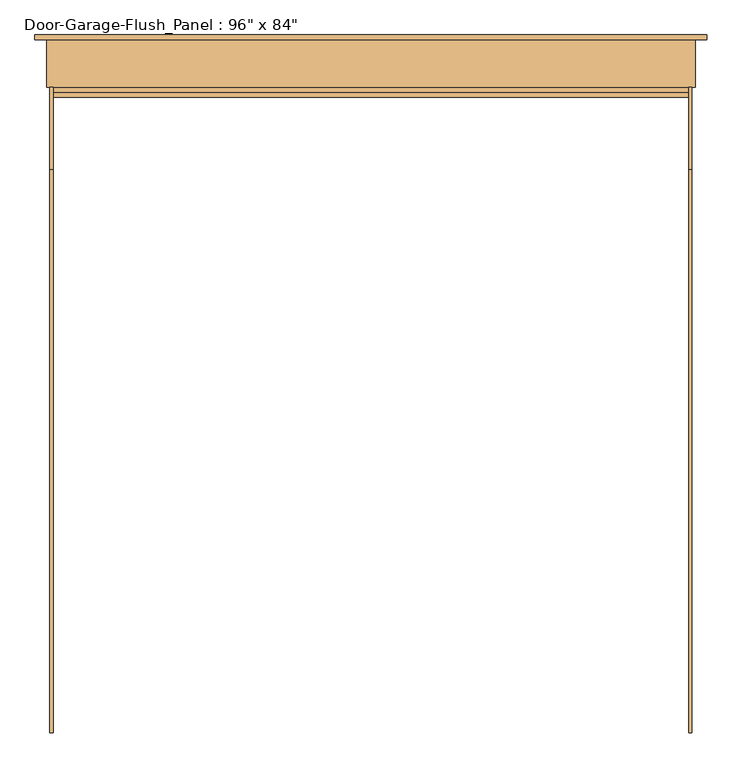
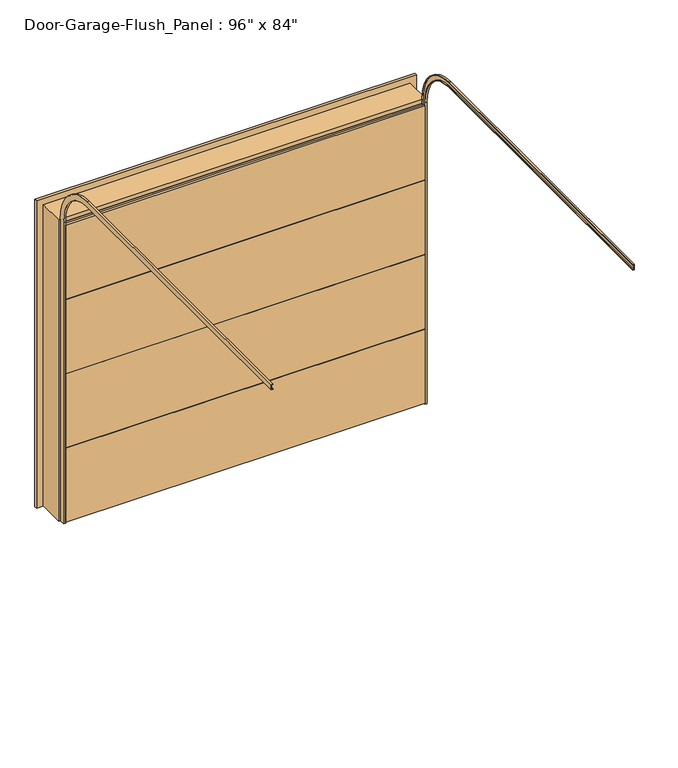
"""IFC4 building model written with IfcOpenShell, lengths in millimetres: door geometry."""

import ifcopenshell
import ifcopenshell.guid

model = None  # the IFC model being written
_history = None  # IfcOwnerHistory: only IFC2X3 demands one
_inside = {}  # id of a spatial element -> (the spatial element, [elements in it])
_under = {}  # id of a project, library or spatial element -> (it, [spatial elements below it])
_declared = {}  # id of a project -> (the project, [libraries it declares])
_typed = {}  # id of a type object -> (the type object, [elements of that type])
_made_of = {}  # id of a material, layer set ... -> (it, [elements and type objects made of it])


def new_model(schema):
    """Start an empty IFC model of exactly this schema.

    Asked for "IFC4X3", IfcOpenShell would pick the latest addendum, in which some entities
    have other attributes; the version numbers below select the first issue.
    IFC2X3 requires an IfcOwnerHistory on every rooted entity: one is made here for all.
    """
    global model, _history
    if schema == "IFC4X3":
        model = ifcopenshell.file(schema_version=(4, 3, 0, 0))
    else:
        model = ifcopenshell.file(schema=schema)
    _inside.clear()
    _under.clear()
    _declared.clear()
    _typed.clear()
    _made_of.clear()
    _history = None
    if model.schema == "IFC2X3":
        org = make("IfcOrganization", Name="unknown")
        user = make(
            "IfcPersonAndOrganization",
            ThePerson=make("IfcPerson", FamilyName="unknown"),
            TheOrganization=org,
        )
        app = make(
            "IfcApplication",
            ApplicationDeveloper=org,
            Version="unknown",
            ApplicationFullName="unknown",
            ApplicationIdentifier="unknown",
        )
        _history = make(
            "IfcOwnerHistory",
            OwningUser=user,
            OwningApplication=app,
            ChangeAction="ADDED",
            CreationDate=0,
        )
    return model


def make(cls, **values):
    """One entity of the class cls with the attributes given. An attribute that is None is left unset."""
    return model.create_entity(
        cls, **{name: value for name, value in values.items() if value is not None}
    )


def rooted(cls, **values):
    """An entity with a GlobalId (a new one), such as an element, a storey or a relation."""
    return make(cls, GlobalId=ifcopenshell.guid.new(), OwnerHistory=_history, **values)


def si_unit(unit_type, name, prefix=None):
    """IfcSIUnit, for example si_unit("LENGTHUNIT", "METRE", prefix="MILLI")."""
    return make("IfcSIUnit", UnitType=unit_type, Prefix=prefix, Name=name)


def assignment(units):
    """IfcUnitAssignment: the units of a project."""
    return None if units is None else make("IfcUnitAssignment", Units=units)


def point(xyz):
    """IfcCartesianPoint."""
    return None if xyz is None else make("IfcCartesianPoint", Coordinates=xyz)


def direction(xyz):
    """IfcDirection."""
    return None if xyz is None else make("IfcDirection", DirectionRatios=xyz)


def frame(location, z_axis=None, x_axis=None):
    """IfcAxis2Placement3D, a coordinate frame: its origin and axes. An axis left out is left unset."""
    return make(
        "IfcAxis2Placement3D",
        Location=point(location),
        Axis=direction(z_axis),
        RefDirection=direction(x_axis),
    )


def origin():
    """The frame at (0, 0, 0) with its axes left unset."""
    return frame((0.0, 0.0, 0.0))


def place(relative_to, where):
    """IfcLocalPlacement: puts the frame where relative to a parent placement (None: the world)."""
    return make(
        "IfcLocalPlacement", PlacementRelTo=relative_to, RelativePlacement=where
    )


def context(
    kind, dimensions, precision=None, world=None, true_north=None, identifier=None
):
    """IfcGeometricRepresentationContext, for example the 3D "Model" context."""
    return make(
        "IfcGeometricRepresentationContext",
        ContextIdentifier=identifier,
        ContextType=kind,
        CoordinateSpaceDimension=dimensions,
        Precision=precision,
        WorldCoordinateSystem=world,
        TrueNorth=true_north,
    )


def project(units=None, contexts=None):
    """IfcProject with its units and contexts."""
    return rooted(
        "IfcProject",
        Name="project",
        RepresentationContexts=contexts,
        UnitsInContext=assignment(units),
    )


def spatial(cls, under=None, at=None, **own):
    """A site, building, storey or space (cls), placed at a placement, below another one or the project."""
    s = rooted(cls, ObjectPlacement=at, **own)
    if under is not None:
        _under.setdefault(under.id(), (under, []))[1].append(s)
    return s


def polyline(points):
    """IfcPolyline through the points."""
    return make("IfcPolyline", Points=[point(p) for p in points])


def circle_curve(where, radius):
    """IfcCircle in the frame where."""
    return make("IfcCircle", Position=where, Radius=radius)


def outline(outer, holes=None, kind="AREA"):
    """IfcArbitraryClosedProfileDef: a profile drawn as a closed curve; with holes, ...WithVoids."""
    if holes is None:
        return make("IfcArbitraryClosedProfileDef", ProfileType=kind, OuterCurve=outer)
    return make(
        "IfcArbitraryProfileDefWithVoids",
        ProfileType=kind,
        OuterCurve=outer,
        InnerCurves=holes,
    )


def extrude(swept, where, along, depth):
    """IfcExtrudedAreaSolid: the profile swept, set in the frame where, extruded along a direction by depth."""
    return make(
        "IfcExtrudedAreaSolid",
        SweptArea=swept,
        Position=where,
        ExtrudedDirection=direction(along),
        Depth=depth,
    )


def shape(context_of_items, identifier, shape_type, items):
    """IfcShapeRepresentation: the items that make up one representation, for example the "Body"."""
    return make(
        "IfcShapeRepresentation",
        ContextOfItems=context_of_items,
        RepresentationIdentifier=identifier,
        RepresentationType=shape_type,
        Items=items,
    )


def source(mapping_origin, context_of_items, identifier, shape_type, items):
    """IfcRepresentationMap: a shape defined once, which mapped items show again and again."""
    return make(
        "IfcRepresentationMap",
        MappingOrigin=mapping_origin,
        MappedRepresentation=shape(context_of_items, identifier, shape_type, items),
    )


def transform(
    local_origin,
    x_axis=None,
    y_axis=None,
    z_axis=None,
    scale=None,
    scale2=None,
    scale3=None,
    uniform=True,
):
    """IfcCartesianTransformationOperator3D, or its non-uniform kind. x_axis, y_axis, z_axis: its Axis1, 2, 3."""
    if uniform:
        return make(
            "IfcCartesianTransformationOperator3D",
            Axis1=direction(x_axis),
            Axis2=direction(y_axis),
            LocalOrigin=point(local_origin),
            Scale=scale,
            Axis3=direction(z_axis),
        )
    return make(
        "IfcCartesianTransformationOperator3DnonUniform",
        Axis1=direction(x_axis),
        Axis2=direction(y_axis),
        LocalOrigin=point(local_origin),
        Scale=scale,
        Axis3=direction(z_axis),
        Scale2=scale2,
        Scale3=scale3,
    )


def mapped(mapping_source, mapping_target):
    """IfcMappedItem: shows the shape of a source again, moved by a transform."""
    return make(
        "IfcMappedItem", MappingSource=mapping_source, MappingTarget=mapping_target
    )


def made_of(thing, what):
    """Note that an element or type object is made of a material, layer set ...; save() writes the relation."""
    if what is not None:
        _made_of.setdefault(what.id(), (what, []))[1].append(thing)
    return thing


def element(
    cls,
    number,
    at=None,
    inside=None,
    cuts=None,
    type_object=None,
    material=None,
    context=None,
    identifier="Body",
    shape_type=None,
    held_by="IfcProductDefinitionShape",
    body=None,
    shapes=None,
    **own,
):
    """One element of the class cls, such as IfcWall. Its Tag is "e" and its number.

    at: its placement. inside: the storey or other place that contains it. cuts: it is an
    opening in that element (IfcRelVoidsElement). A single representation is given by context,
    identifier, shape_type and body (its items); several are given by shapes. held_by: the class
    of the entity that holds the representations. save() writes the other relations.
    """
    e = rooted(cls, Tag="e%d" % number, ObjectPlacement=at, **own)
    if body is not None:
        shapes = [shape(context, identifier, shape_type, body)]
    if shapes is not None:
        e.Representation = make(held_by, Representations=shapes)
    if inside is not None:
        _inside.setdefault(inside.id(), (inside, []))[1].append(e)
    if cuts is not None:
        rooted(
            "IfcRelVoidsElement", RelatingBuildingElement=cuts, RelatedOpeningElement=e
        )
    if type_object is not None:
        _typed.setdefault(type_object.id(), (type_object, []))[1].append(e)
    return made_of(e, material)


def aggregate(whole, parts):
    """IfcRelAggregates: a whole, such as a stair, and the parts it consists of."""
    return rooted("IfcRelAggregates", RelatingObject=whole, RelatedObjects=parts)


def save(model, path):
    """Write the relations noted so far, then the file.

    IfcRelAggregates (storeys below a building ...), IfcRelContainedInSpatialStructure (elements
    in a storey), IfcRelDefinesByType, IfcRelAssociatesMaterial and IfcRelDeclares: one each for
    every whole, place, type object, material and project.
    """
    for whole, parts in _under.values():
        aggregate(whole, parts)
    for where, things in _inside.values():
        rooted(
            "IfcRelContainedInSpatialStructure",
            RelatedElements=things,
            RelatingStructure=where,
        )
    for kind, things in _typed.values():
        rooted("IfcRelDefinesByType", RelatedObjects=things, RelatingType=kind)
    for what, things in _made_of.values():
        rooted("IfcRelAssociatesMaterial", RelatedObjects=things, RelatingMaterial=what)
    for by, libraries in _declared.values():
        rooted("IfcRelDeclares", RelatingContext=by, RelatedDefinitions=libraries)
    model.write(path)


def plane_surface(at):
    """IfcPlane: the flat surface through the origin of the frame at, square to its z axis."""
    return make("IfcPlane", Position=at)


def cylinder_surface(at, radius):
    """IfcCylindricalSurface: all points at the distance radius from the z axis of the frame at."""
    return make("IfcCylindricalSurface", Position=at, Radius=radius)


def revolved_surface(curve, axis_point, axis_direction):
    """IfcSurfaceOfRevolution: the curve turned about the line through axis_point along axis_direction."""
    return make(
        "IfcSurfaceOfRevolution",
        SweptCurve=make("IfcArbitraryOpenProfileDef", ProfileType="CURVE", Curve=curve),
        AxisPosition=make("IfcAxis1Placement", Location=point(axis_point), Axis=direction(axis_direction)),
    )


def advanced_brep(points, edges, surfaces, faces):
    """IfcAdvancedBrep: a solid bounded by faces that lie on surfaces and meet in shared edges.

    An edge is (start, end): straight between two places in points (the first is 0);
    or (start, end, curve); or (start, end, curve, False) where it runs against its curve.
    A face is (place in surfaces, loops), or (place, loops, False) where it looks against
    its surface's normal. A loop lists edges by number (the first is 1), with a minus sign
    where the edge is run from its end to its start. The first loop is the outer one.
    """
    corners = [point(p) for p in points]
    vertices = [make("IfcVertexPoint", VertexGeometry=c) for c in corners]
    made = []
    for start, end, *more in edges:
        made.append(
            make(
                "IfcEdgeCurve",
                EdgeStart=vertices[start],
                EdgeEnd=vertices[end],
                EdgeGeometry=more[0] if more else make("IfcPolyline", Points=[corners[start], corners[end]]),
                SameSense=more[1] if len(more) > 1 else True,
            )
        )
    hull = []
    for where, loops, *sense in faces:
        bounds = []
        for j, loop in enumerate(loops):
            ring = [make("IfcOrientedEdge", EdgeElement=made[abs(k) - 1], Orientation=k > 0) for k in loop]
            bounds.append(
                make(
                    "IfcFaceOuterBound" if j == 0 else "IfcFaceBound",
                    Bound=make("IfcEdgeLoop", EdgeList=ring),
                    Orientation=True,
                )
            )
        hull.append(make("IfcAdvancedFace", Bounds=bounds, FaceSurface=surfaces[where], SameSense=sense[0] if sense else True))
    return make("IfcAdvancedBrep", Outer=make("IfcClosedShell", CfsFaces=hull))


def door_e74c17d9(model_context):
    return source(origin(), model_context, "Body", "SolidModel", [
        extrude(outline(polyline([(-115.8875, 2136.775), (-115.8875, 2130.425), (-93.6625, 2130.425), (-93.6625, 1600.2), (-109.5375, 1600.2), (-109.5375, 1606.55), (-131.7625, 1606.55), (-131.7625, 2136.775), (-115.8875, 2136.775)])), frame((-1219.2, 0.0, 0.0), z_axis=(1.0, 0.0, 0.0), x_axis=(0.0, 1.0, 0.0)), (0.0, 0.0, 1.0), 2438.4),
        extrude(outline(polyline([(-115.8875, 1603.375), (-115.8875, 1597.025), (-93.6625, 1597.025), (-93.6625, 1066.8), (-109.5375, 1066.8), (-109.5375, 1073.15), (-131.7625, 1073.15), (-131.7625, 1603.375), (-115.8875, 1603.375)])), frame((-1219.2, 0.0, 0.0), z_axis=(1.0, 0.0, 0.0), x_axis=(0.0, 1.0, 0.0)), (0.0, 0.0, 1.0), 2438.4),
        extrude(outline(polyline([(-115.8875, 1069.975), (-115.8875, 1063.625), (-93.6625, 1063.625), (-93.6625, 533.4), (-109.5375, 533.4), (-109.5375, 539.75), (-131.7625, 539.75), (-131.7625, 1069.975), (-115.8875, 1069.975)])), frame((-1219.2, 0.0, 0.0), z_axis=(1.0, 0.0, 0.0), x_axis=(0.0, 1.0, 0.0)), (0.0, 0.0, 1.0), 2438.4),
        extrude(outline(polyline([(-115.8875, 536.575), (-115.8875, 530.225), (-93.6625, 530.225), (-93.6625, 0.0), (-109.5375, 0.0), (-109.5375, 6.35), (-131.7625, 6.35), (-131.7625, 536.575), (-115.8875, 536.575)])), frame((-1219.2, 0.0, 0.0), z_axis=(1.0, 0.0, 0.0), x_axis=(0.0, 1.0, 0.0)), (0.0, 0.0, 1.0), 2438.4),
        advanced_brep(
        [(1231.9, -2570.1625, 2438.4), (1231.9, -2570.1625, 2476.5), (1219.2, -2570.1625, 2476.5), (1219.2, -2570.1625, 2473.325), (1228.725, -2570.1625, 2473.325), (1228.725, -2570.1625, 2441.575), (1219.2, -2570.1625, 2441.575), (1219.2, -2570.1625, 2438.4), (1231.9, -411.1625, 2438.4), (1231.9, -131.7625, 2159.0), (1231.9, -131.7625, 0.0), (1231.9, -93.6625, 0.0), (1231.9, -93.6625, 2159.0), (1231.9, -411.1625, 2476.5), (1219.2, -411.1625, 2476.5), (1219.2, -93.6625, 2159.0), (1219.2, -93.6625, 0.0), (1219.2, -96.8375, 0.0), (1219.2, -96.8375, 2159.0), (1219.2, -411.1625, 2473.325), (1228.725, -411.1625, 2473.325), (1228.725, -96.8375, 2159.0), (1228.725, -96.8375, 0.0), (1228.725, -128.5875, 0.0), (1228.725, -128.5875, 2159.0), (1228.725, -411.1625, 2441.575), (1219.2, -411.1625, 2441.575), (1219.2, -128.5875, 2159.0), (1219.2, -128.5875, 0.0), (1219.2, -131.7625, 0.0), (1219.2, -131.7625, 2159.0), (1219.2, -411.1625, 2438.4)],
        [
            (0, 1),
            (1, 2),
            (2, 3),
            (3, 4),
            (4, 5),
            (5, 6),
            (6, 7),
            (7, 0),
            (0, 8),
            (8, 9, circle_curve(frame((1231.9, -411.1625, 2159.0), z_axis=(-1.0, 0.0, 0.0), x_axis=(0.0, 0.0, 1.0)), 279.4)),
            (9, 10),
            (10, 11),
            (11, 12),
            (12, 13, circle_curve(frame((1231.9, -411.1625, 2159.0), z_axis=(1.0, 0.0, 0.0), x_axis=(0.0, 0.0, 1.0)), 317.5)),
            (13, 1),
            (13, 14),
            (14, 2),
            (14, 15, circle_curve(frame((1219.2, -411.1625, 2159.0), z_axis=(-1.0, 0.0, 0.0), x_axis=(0.0, 0.0, 1.0)), 317.5)),
            (15, 16),
            (16, 17),
            (17, 18),
            (18, 19, circle_curve(frame((1219.2, -411.1625, 2159.0), z_axis=(1.0, 0.0, 0.0), x_axis=(0.0, 0.0, 1.0)), 314.325)),
            (19, 3),
            (19, 20),
            (20, 4),
            (20, 21, circle_curve(frame((1228.725, -411.1625, 2159.0), z_axis=(-1.0, 0.0, 0.0), x_axis=(0.0, 0.0, 1.0)), 314.325)),
            (21, 22),
            (22, 23),
            (23, 24),
            (24, 25, circle_curve(frame((1228.725, -411.1625, 2159.0), z_axis=(1.0, 0.0, 0.0), x_axis=(0.0, 0.0, 1.0)), 282.575)),
            (25, 5),
            (25, 26),
            (26, 6),
            (26, 27, circle_curve(frame((1219.2, -411.1625, 2159.0), z_axis=(-1.0, 0.0, 0.0), x_axis=(0.0, 0.0, 1.0)), 282.575)),
            (27, 28),
            (28, 29),
            (29, 30),
            (30, 31, circle_curve(frame((1219.2, -411.1625, 2159.0), z_axis=(1.0, 0.0, 0.0), x_axis=(0.0, 0.0, 1.0)), 279.4)),
            (31, 7),
            (31, 8),
            (12, 15),
            (18, 21),
            (24, 27),
            (30, 9),
            (10, 29),
            (28, 23),
            (22, 17),
            (16, 11),
        ],
        [
            plane_surface(frame((0.0, -2570.1625, 2438.4), z_axis=(0.0, -1.0, 0.0), x_axis=(1.0, 0.0, 0.0))),
            plane_surface(frame((1231.9, -2570.1625, 2438.4), z_axis=(1.0, 0.0, 0.0), x_axis=(0.0, 1.0, 0.0))),
            plane_surface(frame((1231.9, -2570.1625, 2476.5), z_axis=(0.0, 0.0, 1.0), x_axis=(0.0, 1.0, 0.0))),
            plane_surface(frame((1219.2, -2570.1625, 2476.5), z_axis=(-1.0, 0.0, 0.0), x_axis=(0.0, 1.0, 0.0))),
            plane_surface(frame((1219.2, -2570.1625, 2473.325), z_axis=(0.0, 0.0, -1.0), x_axis=(0.0, 1.0, 0.0))),
            plane_surface(frame((1228.725, -2570.1625, 2473.325), z_axis=(-1.0, 0.0, 0.0), x_axis=(0.0, 1.0, 0.0))),
            plane_surface(frame((1228.725, -2570.1625, 2441.575), z_axis=(0.0, 0.0, 1.0), x_axis=(0.0, 1.0, 0.0))),
            plane_surface(frame((1219.2, -2570.1625, 2441.575), z_axis=(-1.0, 0.0, 0.0), x_axis=(0.0, 1.0, 0.0))),
            plane_surface(frame((1219.2, -2570.1625, 2438.4), z_axis=(0.0, 0.0, -1.0), x_axis=(0.0, 1.0, 0.0))),
            cylinder_surface(frame((0.0, -411.1625, 2159.0), z_axis=(-1.0, 0.0, 0.0), x_axis=(0.0, 0.0, 1.0)), 317.5),
            revolved_surface(polyline([(1219.2, -411.1625, 2473.325), (1228.725, -411.1625, 2473.325)]), (0.0, -411.1625, 2159.0), (-1.0, 0.0, 0.0)),
            cylinder_surface(frame((0.0, -411.1625, 2159.0), z_axis=(-1.0, 0.0, 0.0), x_axis=(0.0, 0.0, 1.0)), 282.575),
            revolved_surface(polyline([(1219.2, -411.1625, 2438.4), (1231.9, -411.1625, 2438.4)]), (0.0, -411.1625, 2159.0), (-1.0, 0.0, 0.0)),
            plane_surface(frame((0.0, -131.7625, 0.0), z_axis=(0.0, 0.0, -1.0), x_axis=(1.0, 0.0, 0.0))),
            plane_surface(frame((1231.9, -93.6625, 2159.0), z_axis=(0.0, 1.0, 0.0), x_axis=(0.0, 0.0, -1.0))),
            plane_surface(frame((1219.2, -96.8375, 2159.0), z_axis=(0.0, -1.0, 0.0), x_axis=(0.0, 0.0, -1.0))),
            plane_surface(frame((1228.725, -128.5875, 2159.0), z_axis=(0.0, 1.0, 0.0), x_axis=(0.0, 0.0, -1.0))),
            plane_surface(frame((1219.2, -131.7625, 2159.0), z_axis=(0.0, -1.0, 0.0), x_axis=(0.0, 0.0, -1.0))),
        ],
        [
            (0, [[1, 2, 3, 4, 5, 6, 7, 8]]),
            (1, [[-1, 9, 10, 11, 12, 13, 14, 15]]),
            (2, [[-2, -15, 16, 17]]),
            (3, [[-3, -17, 18, 19, 20, 21, 22, 23]]),
            (4, [[-4, -23, 24, 25]]),
            (5, [[-5, -25, 26, 27, 28, 29, 30, 31]]),
            (6, [[-6, -31, 32, 33]]),
            (7, [[-7, -33, 34, 35, 36, 37, 38, 39]]),
            (8, [[-8, -39, 40, -9]]),
            (9, [[-18, -16, -14, 41]]),
            (10, [[-26, -24, -22, 42]]),
            (11, [[-34, -32, -30, 43]]),
            (12, [[-10, -40, -38, 44]]),
            (13, [[45, -36, 46, -28, 47, -20, 48, -12]]),
            (14, [[-41, -13, -48, -19]]),
            (15, [[-42, -21, -47, -27]]),
            (16, [[-43, -29, -46, -35]]),
            (17, [[-44, -37, -45, -11]]),
        ],
    ),
        advanced_brep(
        [(-1231.9, -2570.1625, 2438.4), (-1219.2, -2570.1625, 2438.4), (-1219.2, -2570.1625, 2441.575), (-1228.725, -2570.1625, 2441.575), (-1228.725, -2570.1625, 2473.325), (-1219.2, -2570.1625, 2473.325), (-1219.2, -2570.1625, 2476.5), (-1231.9, -2570.1625, 2476.5), (-1231.9, -411.1625, 2438.4), (-1219.2, -411.1625, 2438.4), (-1219.2, -131.7625, 2159.0), (-1219.2, -131.7625, 0.0), (-1219.2, -128.5875, 0.0), (-1219.2, -128.5875, 2159.0), (-1219.2, -411.1625, 2441.575), (-1228.725, -411.1625, 2441.575), (-1228.725, -128.5875, 2159.0), (-1228.725, -128.5875, 0.0), (-1228.725, -96.8375, 0.0), (-1228.725, -96.8375, 2159.0), (-1228.725, -411.1625, 2473.325), (-1219.2, -411.1625, 2473.325), (-1219.2, -96.8375, 2159.0), (-1219.2, -96.8375, 0.0), (-1219.2, -93.6625, 0.0), (-1219.2, -93.6625, 2159.0), (-1219.2, -411.1625, 2476.5), (-1231.9, -411.1625, 2476.5), (-1231.9, -93.6625, 2159.0), (-1231.9, -93.6625, 0.0), (-1231.9, -131.7625, 0.0), (-1231.9, -131.7625, 2159.0)],
        [
            (0, 1),
            (1, 2),
            (2, 3),
            (3, 4),
            (4, 5),
            (5, 6),
            (6, 7),
            (7, 0),
            (0, 8),
            (8, 9),
            (9, 1),
            (9, 10, circle_curve(frame((-1219.2, -411.1625, 2159.0), z_axis=(-1.0, 0.0, 0.0), x_axis=(0.0, 0.0, 1.0)), 279.4)),
            (10, 11),
            (11, 12),
            (12, 13),
            (13, 14, circle_curve(frame((-1219.2, -411.1625, 2159.0), z_axis=(1.0, 0.0, 0.0), x_axis=(0.0, 0.0, 1.0)), 282.575)),
            (14, 2),
            (14, 15),
            (15, 3),
            (15, 16, circle_curve(frame((-1228.725, -411.1625, 2159.0), z_axis=(-1.0, 0.0, 0.0), x_axis=(0.0, 0.0, 1.0)), 282.575)),
            (16, 17),
            (17, 18),
            (18, 19),
            (19, 20, circle_curve(frame((-1228.725, -411.1625, 2159.0), z_axis=(1.0, 0.0, 0.0), x_axis=(0.0, 0.0, 1.0)), 314.325)),
            (20, 4),
            (20, 21),
            (21, 5),
            (21, 22, circle_curve(frame((-1219.2, -411.1625, 2159.0), z_axis=(-1.0, 0.0, 0.0), x_axis=(0.0, 0.0, 1.0)), 314.325)),
            (22, 23),
            (23, 24),
            (24, 25),
            (25, 26, circle_curve(frame((-1219.2, -411.1625, 2159.0), z_axis=(1.0, 0.0, 0.0), x_axis=(0.0, 0.0, 1.0)), 317.5)),
            (26, 6),
            (26, 27),
            (27, 7),
            (27, 28, circle_curve(frame((-1231.9, -411.1625, 2159.0), z_axis=(-1.0, 0.0, 0.0), x_axis=(0.0, 0.0, 1.0)), 317.5)),
            (28, 29),
            (29, 30),
            (30, 31),
            (31, 8, circle_curve(frame((-1231.9, -411.1625, 2159.0), z_axis=(1.0, 0.0, 0.0), x_axis=(0.0, 0.0, 1.0)), 279.4)),
            (31, 10),
            (13, 16),
            (19, 22),
            (25, 28),
            (29, 24),
            (23, 18),
            (17, 12),
            (11, 30),
        ],
        [
            plane_surface(frame((0.0, -2570.1625, 2438.4), z_axis=(0.0, -1.0, 0.0), x_axis=(1.0, 0.0, 0.0))),
            plane_surface(frame((-1231.9, -2570.1625, 2438.4), z_axis=(0.0, 0.0, -1.0), x_axis=(0.0, 1.0, 0.0))),
            plane_surface(frame((-1219.2, -2570.1625, 2438.4), z_axis=(1.0, 0.0, 0.0), x_axis=(0.0, 1.0, 0.0))),
            plane_surface(frame((-1219.2, -2570.1625, 2441.575), z_axis=(0.0, 0.0, 1.0), x_axis=(0.0, 1.0, 0.0))),
            plane_surface(frame((-1228.725, -2570.1625, 2441.575), z_axis=(1.0, 0.0, 0.0), x_axis=(0.0, 1.0, 0.0))),
            plane_surface(frame((-1228.725, -2570.1625, 2473.325), z_axis=(0.0, 0.0, -1.0), x_axis=(0.0, 1.0, 0.0))),
            plane_surface(frame((-1219.2, -2570.1625, 2473.325), z_axis=(1.0, 0.0, 0.0), x_axis=(0.0, 1.0, 0.0))),
            plane_surface(frame((-1219.2, -2570.1625, 2476.5), z_axis=(0.0, 0.0, 1.0), x_axis=(0.0, 1.0, 0.0))),
            plane_surface(frame((-1231.9, -2570.1625, 2476.5), z_axis=(-1.0, 0.0, 0.0), x_axis=(0.0, 1.0, 0.0))),
            revolved_surface(polyline([(-1231.9, -411.1625, 2438.4), (-1219.2, -411.1625, 2438.4)]), (0.0, -411.1625, 2159.0), (-1.0, 0.0, 0.0)),
            cylinder_surface(frame((0.0, -411.1625, 2159.0), z_axis=(-1.0, 0.0, 0.0), x_axis=(0.0, 0.0, 1.0)), 282.575),
            revolved_surface(polyline([(-1228.725, -411.1625, 2473.325), (-1219.2, -411.1625, 2473.325)]), (0.0, -411.1625, 2159.0), (-1.0, 0.0, 0.0)),
            cylinder_surface(frame((0.0, -411.1625, 2159.0), z_axis=(-1.0, 0.0, 0.0), x_axis=(0.0, 0.0, 1.0)), 317.5),
            plane_surface(frame((0.0, -131.7625, 0.0), z_axis=(0.0, 0.0, -1.0), x_axis=(1.0, 0.0, 0.0))),
            plane_surface(frame((-1231.9, -131.7625, 2159.0), z_axis=(0.0, -1.0, 0.0), x_axis=(0.0, 0.0, -1.0))),
            plane_surface(frame((-1219.2, -128.5875, 2159.0), z_axis=(0.0, 1.0, 0.0), x_axis=(0.0, 0.0, -1.0))),
            plane_surface(frame((-1228.725, -96.8375, 2159.0), z_axis=(0.0, -1.0, 0.0), x_axis=(0.0, 0.0, -1.0))),
            plane_surface(frame((-1219.2, -93.6625, 2159.0), z_axis=(0.0, 1.0, 0.0), x_axis=(0.0, 0.0, -1.0))),
        ],
        [
            (0, [[1, 2, 3, 4, 5, 6, 7, 8]]),
            (1, [[-1, 9, 10, 11]]),
            (2, [[-2, -11, 12, 13, 14, 15, 16, 17]]),
            (3, [[-3, -17, 18, 19]]),
            (4, [[-4, -19, 20, 21, 22, 23, 24, 25]]),
            (5, [[-5, -25, 26, 27]]),
            (6, [[-6, -27, 28, 29, 30, 31, 32, 33]]),
            (7, [[-7, -33, 34, 35]]),
            (8, [[-8, -35, 36, 37, 38, 39, 40, -9]]),
            (9, [[-12, -10, -40, 41]]),
            (10, [[-20, -18, -16, 42]]),
            (11, [[-28, -26, -24, 43]]),
            (12, [[-36, -34, -32, 44]]),
            (13, [[-38, 45, -30, 46, -22, 47, -14, 48]]),
            (14, [[-41, -39, -48, -13]]),
            (15, [[-42, -15, -47, -21]]),
            (16, [[-43, -23, -46, -29]]),
            (17, [[-44, -31, -45, -37]]),
        ],
    ),
        extrude(outline(polyline([(0.0, 1219.2), (0.0, 1244.6), (2159.0, 1244.6), (2159.0, -1244.6), (0.0, -1244.6), (0.0, -1219.2), (2133.6, -1219.2), (2133.6, 1219.2), (0.0, 1219.2)])), frame((0.0, -93.6625, 0.0), z_axis=(0.0, 1.0, 0.0), x_axis=(0.0, 0.0, 1.0)), (0.0, 0.0, 1.0), 180.975),
        extrude(outline(polyline([(0.0, 1225.55), (0.0, 1289.05), (2203.45, 1289.05), (2203.45, -1289.05), (0.0, -1289.05), (0.0, -1225.55), (2139.95, -1225.55), (2139.95, 1225.55), (0.0, 1225.55)])), frame((0.0, 87.3125, 0.0), z_axis=(0.0, 1.0, 0.0), x_axis=(0.0, 0.0, 1.0)), (0.0, 0.0, 1.0), 19.05),
    ])


if __name__ == "__main__":
    model = new_model("IFC4")
    model_context = context("Model", 3, world=origin())
    ifc_project = project(units=[si_unit("LENGTHUNIT", "METRE", prefix="MILLI")], contexts=[model_context])
    site = spatial("IfcSite", under=ifc_project)
    building = spatial("IfcBuilding", under=site)
    placement = place(None, origin())
    door_shape = door_e74c17d9(model_context)
    element("IfcDoor", 1, ObjectType="Door-Garage-Flush_Panel : 96\" x 84\"", at=placement, inside=building, context=model_context, shape_type="MappedRepresentation", body=[
        mapped(door_shape, transform((0.0, 0.0, 0.0), x_axis=(1.0, 0.0, 0.0), y_axis=(0.0, 1.0, 0.0), z_axis=(0.0, 0.0, 1.0))),
    ])
    save(model, "model.ifc")
